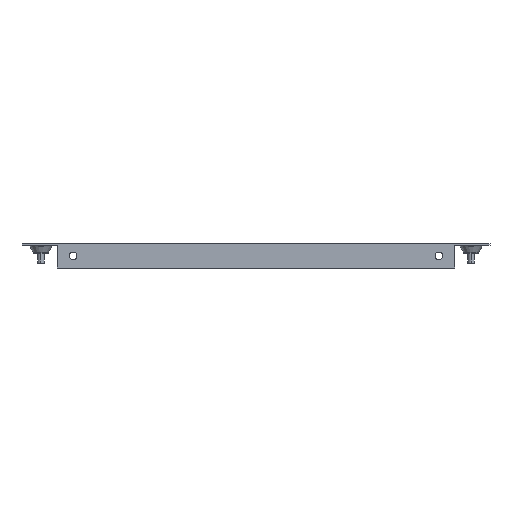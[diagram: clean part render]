
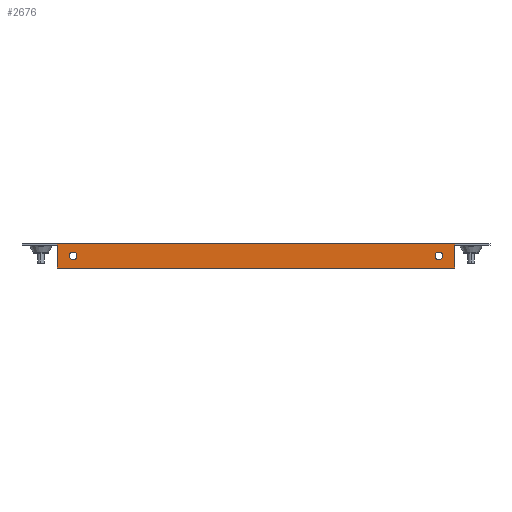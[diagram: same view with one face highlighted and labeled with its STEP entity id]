
A CAD part, front view. The second image highlights one B-rep face of the part: STEP entity #2676.
In plain terms, the highlighted planar face has unit normal (0, -1, 0).
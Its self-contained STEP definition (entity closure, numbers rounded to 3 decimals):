
#396=DIRECTION('',(0.,0.,1.));
#397=VECTOR('',#396,2.5);
#398=CARTESIAN_POINT('',(32.5,0.,0.));
#399=LINE('',#398,#397);
#400=DIRECTION('',(0.,0.,1.));
#401=VECTOR('',#400,20.);
#402=CARTESIAN_POINT('',(32.5,0.,2.5));
#403=LINE('',#402,#401);
#404=DIRECTION('',(1.,0.,0.));
#405=VECTOR('',#404,369.);
#406=CARTESIAN_POINT('',(32.5,0.,22.5));
#407=LINE('',#406,#405);
#408=CARTESIAN_POINT('',(47.5,0.,11.5));
#409=DIRECTION('',(0.,-1.,0.));
#410=DIRECTION('',(0.,0.,-1.));
#411=AXIS2_PLACEMENT_3D('',#408,#409,#410);
#413=CARTESIAN_POINT('',(47.5,0.,11.5));
#414=DIRECTION('',(0.,-1.,0.));
#415=DIRECTION('',(0.,0.,1.));
#416=AXIS2_PLACEMENT_3D('',#413,#414,#415);
#418=CARTESIAN_POINT('',(386.5,0.,11.5));
#419=DIRECTION('',(0.,-1.,0.));
#420=DIRECTION('',(0.,0.,-1.));
#421=AXIS2_PLACEMENT_3D('',#418,#419,#420);
#423=CARTESIAN_POINT('',(386.5,0.,11.5));
#424=DIRECTION('',(0.,-1.,0.));
#425=DIRECTION('',(0.,0.,1.));
#426=AXIS2_PLACEMENT_3D('',#423,#424,#425);
#428=DIRECTION('',(0.,0.,1.));
#429=VECTOR('',#428,20.);
#430=CARTESIAN_POINT('',(401.5,0.,2.5));
#431=LINE('',#430,#429);
#520=DIRECTION('',(1.,0.,0.));
#521=VECTOR('',#520,369.);
#522=CARTESIAN_POINT('',(32.5,0.,0.));
#523=LINE('',#522,#521);
#533=DIRECTION('',(0.,0.,1.));
#534=VECTOR('',#533,2.5);
#535=CARTESIAN_POINT('',(401.5,0.,0.));
#536=LINE('',#535,#534);
#1754=CARTESIAN_POINT('',(401.5,0.,22.5));
#1755=VERTEX_POINT('',#1754);
#1756=CARTESIAN_POINT('',(32.5,0.,22.5));
#1757=VERTEX_POINT('',#1756);
#1906=CARTESIAN_POINT('',(32.5,0.,2.5));
#1907=VERTEX_POINT('',#1906);
#1910=CARTESIAN_POINT('',(401.5,0.,2.5));
#1911=VERTEX_POINT('',#1910);
#1912=CARTESIAN_POINT('',(401.5,0.,0.));
#1913=VERTEX_POINT('',#1912);
#1914=CARTESIAN_POINT('',(32.5,0.,0.));
#1915=VERTEX_POINT('',#1914);
#1916=CARTESIAN_POINT('',(47.5,0.,8.));
#1917=CARTESIAN_POINT('',(47.5,0.,15.));
#1918=VERTEX_POINT('',#1916);
#1919=VERTEX_POINT('',#1917);
#1920=CARTESIAN_POINT('',(386.5,0.,8.));
#1921=CARTESIAN_POINT('',(386.5,0.,15.));
#1922=VERTEX_POINT('',#1920);
#1923=VERTEX_POINT('',#1921);
#2647=CARTESIAN_POINT('',(0.,0.,0.));
#2648=DIRECTION('',(0.,-1.,0.));
#2649=DIRECTION('',(0.,0.,1.));
#2650=AXIS2_PLACEMENT_3D('',#2647,#2648,#2649);
#2651=PLANE('',#2650);
#2653=ORIENTED_EDGE('',*,*,#2652,.F.);
#2655=ORIENTED_EDGE('',*,*,#2654,.F.);
#2657=ORIENTED_EDGE('',*,*,#2656,.F.);
#2659=ORIENTED_EDGE('',*,*,#2658,.T.);
#2660=ORIENTED_EDGE('',*,*,#2637,.T.);
#2661=ORIENTED_EDGE('',*,*,#2273,.T.);
#2662=EDGE_LOOP('',(#2653,#2655,#2657,#2659,#2660,#2661));
#2663=FACE_OUTER_BOUND('',#2662,.F.);
#2665=ORIENTED_EDGE('',*,*,#2664,.T.);
#2667=ORIENTED_EDGE('',*,*,#2666,.T.);
#2668=EDGE_LOOP('',(#2665,#2667));
#2669=FACE_BOUND('',#2668,.F.);
#2671=ORIENTED_EDGE('',*,*,#2670,.T.);
#2673=ORIENTED_EDGE('',*,*,#2672,.T.);
#2674=EDGE_LOOP('',(#2671,#2673));
#2675=FACE_BOUND('',#2674,.F.);
#412=CIRCLE('',#411,3.5);
#417=CIRCLE('',#416,3.5);
#422=CIRCLE('',#421,3.5);
#427=CIRCLE('',#426,3.5);
#2273=EDGE_CURVE('',#1757,#1755,#407,.T.);
#2637=EDGE_CURVE('',#1907,#1757,#403,.T.);
#2652=EDGE_CURVE('',#1911,#1755,#431,.T.);
#2654=EDGE_CURVE('',#1913,#1911,#536,.T.);
#2656=EDGE_CURVE('',#1915,#1913,#523,.T.);
#2658=EDGE_CURVE('',#1915,#1907,#399,.T.);
#2664=EDGE_CURVE('',#1918,#1919,#412,.T.);
#2666=EDGE_CURVE('',#1919,#1918,#417,.T.);
#2670=EDGE_CURVE('',#1922,#1923,#422,.T.);
#2672=EDGE_CURVE('',#1923,#1922,#427,.T.);
#2676=ADVANCED_FACE('',(#2663,#2669,#2675),#2651,.T.);
